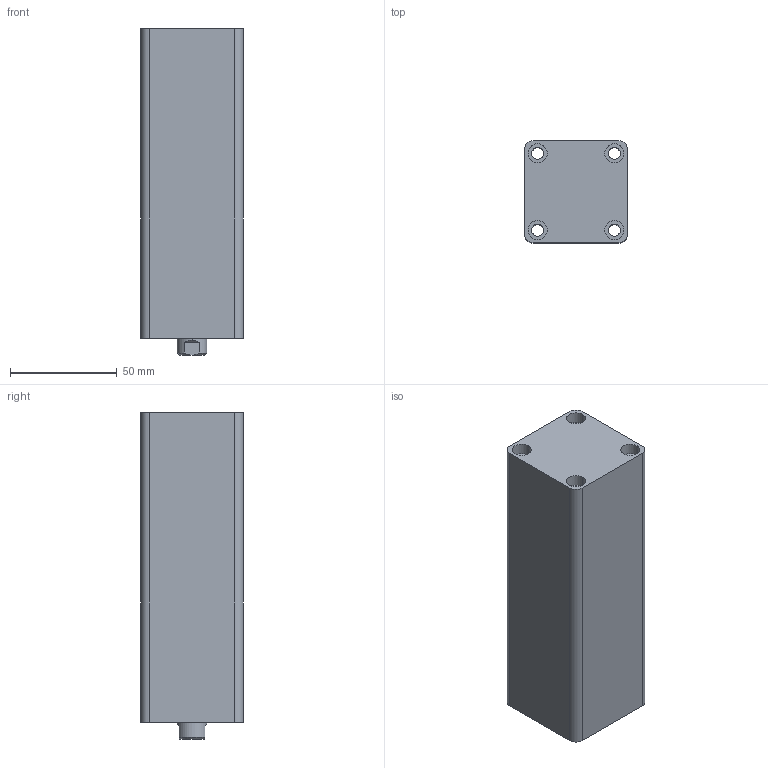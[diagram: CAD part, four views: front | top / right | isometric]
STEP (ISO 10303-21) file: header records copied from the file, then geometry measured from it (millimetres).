
FILE_DESCRIPTION (( 'STEP AP203' ), '1' );
FILE_NAME ('HTB-SD25-100N.STEP', '2019-10-07T06:21:41', ( '微软用户' ), ( '微软中国' ), 'SwSTEP 2.0', 'SolidWorks 2012', '' );
FILE_SCHEMA (( 'CONFIG_CONTROL_DESIGN' ));
Length unit declared in the file: millimetre
Products named in the file (3): HTB-SD25-100N; HTB-SD25-100掛极; HTB-SD25-100N活塞杆
Assembly tree (2 placements, depth 2):
  HTB-SD25-100N
    HTB-SD25-100掛极
    HTB-SD25-100N活塞杆
Bounding box: 48 x 48 x 153 mm (x, y, z)
Volume: 281645.1 mm3; surface area: 61251.4 mm2
Topology: 2 solids, 2 shells, 83 faces, 182 edges, 117 vertices
Faces by surface type: cylinder 42, plane 27, cone 8, torus 6
Entity records: 2653 total; most frequent: DIRECTION 454, CARTESIAN_POINT 429, ORIENTED_EDGE 360, AXIS2_PLACEMENT_3D 194, EDGE_CURVE 180, VERTEX_POINT 117, EDGE_LOOP 107, CIRCLE 106
